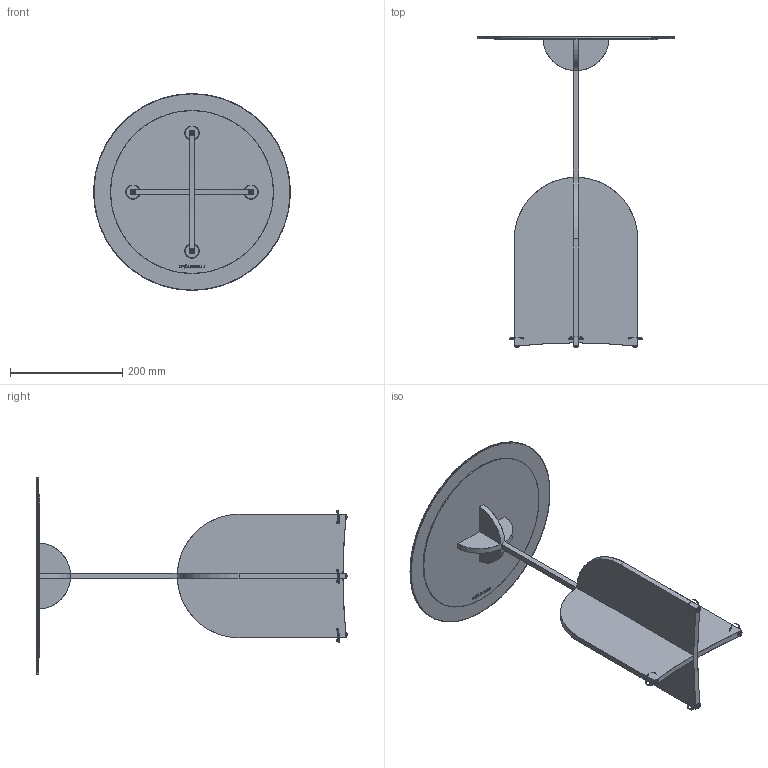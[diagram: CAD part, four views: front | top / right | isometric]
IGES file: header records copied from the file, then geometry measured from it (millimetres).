
Start section: SolidWorks IGES file using analytic representation for surfaces
Global section: file name: \\utenti\Dati Utenti\Tecnico\DC\2D - 3D per sito\3D\DeCastelli-3D-Nicola 55.igs; native system: SolidWorks 2022; preprocessor: SolidWorks 2022; author: Simonep; date: 240729.120345; units: millimetre
Bounding box: 350 x 552.5 x 350 mm (x, y, z)
Surface area: 551161.1 mm2 (no closed solid volume)
Topology: 0 solids, 0 shells, 169 faces, 2218 edges, 2214 vertices
Faces by surface type: bspline 106, revolution 63
